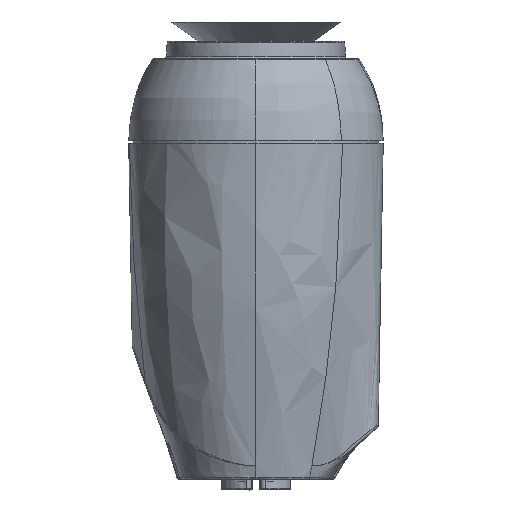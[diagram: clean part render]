
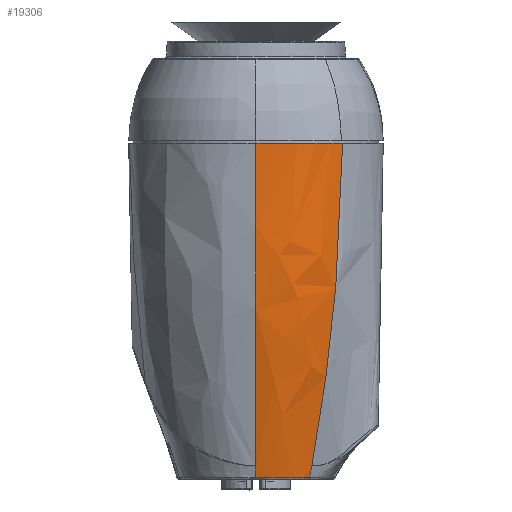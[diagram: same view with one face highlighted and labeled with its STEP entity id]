
A CAD part, left-side view. The second image highlights one B-rep face of the part: STEP entity #19306.
In plain terms, the highlighted free-form (B-spline) face has degree [3, 3] with [4, 8] control points.
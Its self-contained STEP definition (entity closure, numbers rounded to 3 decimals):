
#942=B_SPLINE_SURFACE_WITH_KNOTS('',3,3,((#41378,#41379,#41380,#41381,#41382,
#41383,#41384,#41385),(#41386,#41387,#41388,#41389,#41390,#41391,#41392,
#41393),(#41394,#41395,#41396,#41397,#41398,#41399,#41400,#41401),(#41402,
#41403,#41404,#41405,#41406,#41407,#41408,#41409)),.UNSPECIFIED.,.F.,.F.,
 .F.,(4,4),(4,1,1,1,1,4),(-0.01,1.004),(-0.147,
2.198,4.397,6.595,8.794,8.941),
 .UNSPECIFIED.);
#1266=B_SPLINE_CURVE_WITH_KNOTS('',3,(#39980,#39981,#39982,#39983,#39984,
#39985,#39986,#39987,#39988,#39989,#39990,#39991,#39992),.UNSPECIFIED.,
 .F.,.F.,(4,3,3,3,4),(0.,0.25,0.5,0.75,
1.),.UNSPECIFIED.);
#1290=B_SPLINE_CURVE_WITH_KNOTS('',3,(#41374,#41375,#41376,#41377),
 .UNSPECIFIED.,.F.,.F.,(4,4),(0.,1.),.UNSPECIFIED.);
#1291=B_SPLINE_CURVE_WITH_KNOTS('',3,(#41412,#41413,#41414,#41415,#41416,
#41417,#41418),.UNSPECIFIED.,.F.,.F.,(4,3,4),(0.,0.616,1.),
 .UNSPECIFIED.);
#1292=B_SPLINE_CURVE_WITH_KNOTS('',3,(#41420,#41421,#41422,#41423),
 .UNSPECIFIED.,.F.,.F.,(4,4),(0.,1.),.UNSPECIFIED.);
#1293=B_SPLINE_CURVE_WITH_KNOTS('',3,(#41425,#41426,#41427,#41428,#41429,
#41430,#41431),.UNSPECIFIED.,.F.,.F.,(4,1,1,1,4),(0.,0.25,0.5,
0.75,1.),.UNSPECIFIED.);
#1294=B_SPLINE_CURVE_WITH_KNOTS('',3,(#41433,#41434,#41435,#41436),
 .UNSPECIFIED.,.F.,.F.,(4,4),(0.,1.),.UNSPECIFIED.);
#4394=FACE_OUTER_BOUND('',#5595,.T.);
#5595=EDGE_LOOP('',(#13352,#13353,#13354,#13355,#13356,#13357,#13358));
#6844=CIRCLE('',#20679,156.023);
#8104=VERTEX_POINT('',#39964);
#8105=VERTEX_POINT('',#39979);
#8136=VERTEX_POINT('',#41026);
#8137=VERTEX_POINT('',#41410);
#8138=VERTEX_POINT('',#41411);
#8139=VERTEX_POINT('',#41419);
#8140=VERTEX_POINT('',#41424);
#10076=EDGE_CURVE('',#8104,#8105,#1266,.T.);
#10118=EDGE_CURVE('',#8105,#8136,#1290,.T.);
#10119=EDGE_CURVE('',#8137,#8138,#1291,.T.);
#10120=EDGE_CURVE('',#8139,#8138,#1292,.T.);
#10121=EDGE_CURVE('',#8139,#8140,#1293,.T.);
#10122=EDGE_CURVE('',#8140,#8136,#6844,.T.);
#10123=EDGE_CURVE('',#8137,#8104,#1294,.T.);
#13352=ORIENTED_EDGE('',*,*,#10119,.T.);
#13353=ORIENTED_EDGE('',*,*,#10120,.F.);
#13354=ORIENTED_EDGE('',*,*,#10121,.T.);
#13355=ORIENTED_EDGE('',*,*,#10122,.T.);
#13356=ORIENTED_EDGE('',*,*,#10118,.F.);
#13357=ORIENTED_EDGE('',*,*,#10076,.F.);
#13358=ORIENTED_EDGE('',*,*,#10123,.F.);
#19306=ADVANCED_FACE('',(#4394),#942,.T.);
#20679=AXIS2_PLACEMENT_3D('',#41432,#23191,#23192);
#23191=DIRECTION('center_axis',(-0.679,0.734,0.001));
#23192=DIRECTION('ref_axis',(-0.71,-0.655,-0.259));
#39964=CARTESIAN_POINT('',(-62.011,0.009,-11.654));
#39979=CARTESIAN_POINT('',(-58.106,-9.878,-11.654));
#39980=CARTESIAN_POINT('Ctrl Pts',(-62.011,0.009,
-11.654));
#39981=CARTESIAN_POINT('Ctrl Pts',(-62.011,-0.898,-11.654));
#39982=CARTESIAN_POINT('Ctrl Pts',(-61.929,-1.806,
-11.654));
#39983=CARTESIAN_POINT('Ctrl Pts',(-61.76,-2.697,
-11.654));
#39984=CARTESIAN_POINT('Ctrl Pts',(-61.591,-3.588,
-11.654));
#39985=CARTESIAN_POINT('Ctrl Pts',(-61.337,-4.463,
-11.654));
#39986=CARTESIAN_POINT('Ctrl Pts',(-61.002,-5.306,
-11.654));
#39987=CARTESIAN_POINT('Ctrl Pts',(-60.667,-6.149,
-11.654));
#39988=CARTESIAN_POINT('Ctrl Pts',(-60.251,-6.96,
-11.654));
#39989=CARTESIAN_POINT('Ctrl Pts',(-59.764,-7.725,
-11.654));
#39990=CARTESIAN_POINT('Ctrl Pts',(-59.278,-8.491,
-11.654));
#39991=CARTESIAN_POINT('Ctrl Pts',(-58.721,-9.212,-11.654));
#39992=CARTESIAN_POINT('Ctrl Pts',(-58.106,-9.878,-11.654));
#41026=CARTESIAN_POINT('',(-54.358,-6.374,-48.436));
#41374=CARTESIAN_POINT('Ctrl Pts',(-58.106,-9.878,
-11.654));
#41375=CARTESIAN_POINT('Ctrl Pts',(-57.995,-9.761,
-24.026));
#41376=CARTESIAN_POINT('Ctrl Pts',(-56.745,-8.593,
-36.287));
#41377=CARTESIAN_POINT('Ctrl Pts',(-54.358,-6.374,-48.436));
#41378=CARTESIAN_POINT('Ctrl Pts',(-62.014,0.191,-11.268));
#41379=CARTESIAN_POINT('Ctrl Pts',(-62.027,-0.777,-11.268));
#41380=CARTESIAN_POINT('Ctrl Pts',(-61.867,-2.655,-11.268));
#41381=CARTESIAN_POINT('Ctrl Pts',(-61.087,-5.34,-11.268));
#41382=CARTESIAN_POINT('Ctrl Pts',(-59.839,-7.773,-11.268));
#41383=CARTESIAN_POINT('Ctrl Pts',(-58.688,-9.263,-11.268));
#41384=CARTESIAN_POINT('Ctrl Pts',(-58.027,-9.971,-11.268));
#41385=CARTESIAN_POINT('Ctrl Pts',(-57.985,-10.015,-11.268));
#41386=CARTESIAN_POINT('Ctrl Pts',(-61.877,0.187,-24.354));
#41387=CARTESIAN_POINT('Ctrl Pts',(-61.889,-0.769,-24.354));
#41388=CARTESIAN_POINT('Ctrl Pts',(-61.733,-2.629,-24.354));
#41389=CARTESIAN_POINT('Ctrl Pts',(-60.955,-5.299,-24.354));
#41390=CARTESIAN_POINT('Ctrl Pts',(-59.718,-7.705,-24.354));
#41391=CARTESIAN_POINT('Ctrl Pts',(-58.583,-9.174,-24.354));
#41392=CARTESIAN_POINT('Ctrl Pts',(-57.935,-9.868,-24.354));
#41393=CARTESIAN_POINT('Ctrl Pts',(-57.894,-9.912,-24.354));
#41394=CARTESIAN_POINT('Ctrl Pts',(-60.007,0.162,-37.316));
#41395=CARTESIAN_POINT('Ctrl Pts',(-60.018,-0.669,-37.316));
#41396=CARTESIAN_POINT('Ctrl Pts',(-59.883,-2.286,-37.316));
#41397=CARTESIAN_POINT('Ctrl Pts',(-59.206,-4.61,-37.316));
#41398=CARTESIAN_POINT('Ctrl Pts',(-58.129,-6.701,-37.316));
#41399=CARTESIAN_POINT('Ctrl Pts',(-57.143,-7.978,-37.316));
#41400=CARTESIAN_POINT('Ctrl Pts',(-56.58,-8.581,-37.316));
#41401=CARTESIAN_POINT('Ctrl Pts',(-56.545,-8.618,-37.316));
#41402=CARTESIAN_POINT('Ctrl Pts',(-56.405,0.115,-50.152));
#41403=CARTESIAN_POINT('Ctrl Pts',(-56.413,-0.478,-50.152));
#41404=CARTESIAN_POINT('Ctrl Pts',(-56.318,-1.628,-50.152));
#41405=CARTESIAN_POINT('Ctrl Pts',(-55.838,-3.272,-50.152));
#41406=CARTESIAN_POINT('Ctrl Pts',(-55.07,-4.76,-50.152));
#41407=CARTESIAN_POINT('Ctrl Pts',(-54.367,-5.674,-50.152));
#41408=CARTESIAN_POINT('Ctrl Pts',(-53.962,-6.108,-50.152));
#41409=CARTESIAN_POINT('Ctrl Pts',(-53.937,-6.135,-50.152));
#41410=CARTESIAN_POINT('',(-60.539,0.006,-30.6));
#41411=CARTESIAN_POINT('',(-56.877,0.004,-48.436));
#41412=CARTESIAN_POINT('Ctrl Pts',(-60.539,0.006,
-30.6));
#41413=CARTESIAN_POINT('Ctrl Pts',(-60.014,0.006,
-34.276));
#41414=CARTESIAN_POINT('Ctrl Pts',(-59.35,0.005,
-37.942));
#41415=CARTESIAN_POINT('Ctrl Pts',(-58.546,0.005,
-41.597));
#41416=CARTESIAN_POINT('Ctrl Pts',(-58.044,0.004,
-43.881));
#41417=CARTESIAN_POINT('Ctrl Pts',(-57.488,0.004,
-46.16));
#41418=CARTESIAN_POINT('Ctrl Pts',(-56.877,0.004,
-48.436));
#41419=CARTESIAN_POINT('',(-56.51,0.004,-49.78));
#41420=CARTESIAN_POINT('Ctrl Pts',(-56.51,0.004,
-49.78));
#41421=CARTESIAN_POINT('Ctrl Pts',(-56.635,0.004,
-49.332));
#41422=CARTESIAN_POINT('Ctrl Pts',(-56.757,0.004,
-48.884));
#41423=CARTESIAN_POINT('Ctrl Pts',(-56.877,0.004,
-48.436));
#41424=CARTESIAN_POINT('',(-54.089,-6.124,-49.78));
#41425=CARTESIAN_POINT('Ctrl Pts',(-56.51,0.004,-49.78));
#41426=CARTESIAN_POINT('Ctrl Pts',(-56.511,-0.558,-49.78));
#41427=CARTESIAN_POINT('Ctrl Pts',(-56.41,-1.684,-49.78));
#41428=CARTESIAN_POINT('Ctrl Pts',(-55.936,-3.311,-49.78));
#41429=CARTESIAN_POINT('Ctrl Pts',(-55.159,-4.816,-49.78));
#41430=CARTESIAN_POINT('Ctrl Pts',(-54.47,-5.71,-49.78));
#41431=CARTESIAN_POINT('Ctrl Pts',(-54.089,-6.124,-49.78));
#41432=CARTESIAN_POINT('Origin',(56.349,95.864,-8.006));
#41433=CARTESIAN_POINT('Ctrl Pts',(-60.539,0.006,
-30.6));
#41434=CARTESIAN_POINT('Ctrl Pts',(-61.437,0.007,
-24.314));
#41435=CARTESIAN_POINT('Ctrl Pts',(-61.928,0.008,
-17.999));
#41436=CARTESIAN_POINT('Ctrl Pts',(-62.011,0.009,
-11.654));
